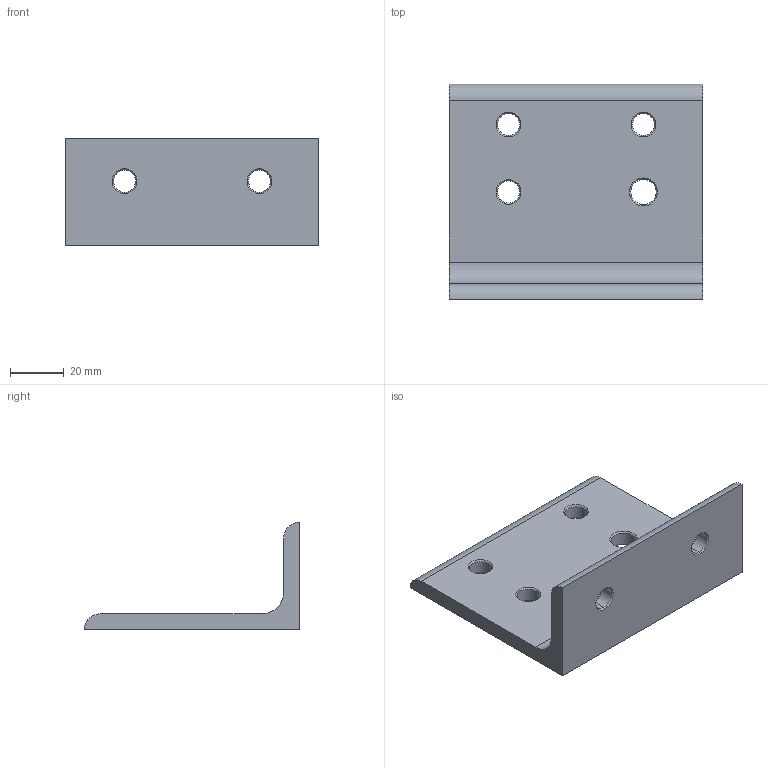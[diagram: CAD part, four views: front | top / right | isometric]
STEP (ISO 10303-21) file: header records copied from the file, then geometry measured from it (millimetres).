
FILE_DESCRIPTION (( 'STEP AP203' ), '1' );
FILE_NAME ('1150100AL.STEP', '2017-04-27T11:54:05', ( '' ), ( '' ), 'SwSTEP 2.0', 'SolidWorks 2014', '' );
FILE_SCHEMA (( 'CONFIG_CONTROL_DESIGN' ));
Length unit declared in the file: millimetre
Products named in the file (1): 1150100AL
Bounding box: 94 x 80 x 40 mm (x, y, z)
Volume: 62095.4 mm3; surface area: 23312.3 mm2
Topology: 1 solids, 1 shells, 45 faces, 105 edges, 62 vertices
Faces by surface type: cone 24, cylinder 15, plane 6
Entity records: 1382 total; most frequent: DIRECTION 251, CARTESIAN_POINT 213, ORIENTED_EDGE 210, EDGE_CURVE 105, AXIS2_PLACEMENT_3D 100, VERTEX_POINT 62, EDGE_LOOP 57, CIRCLE 54
